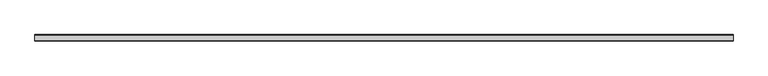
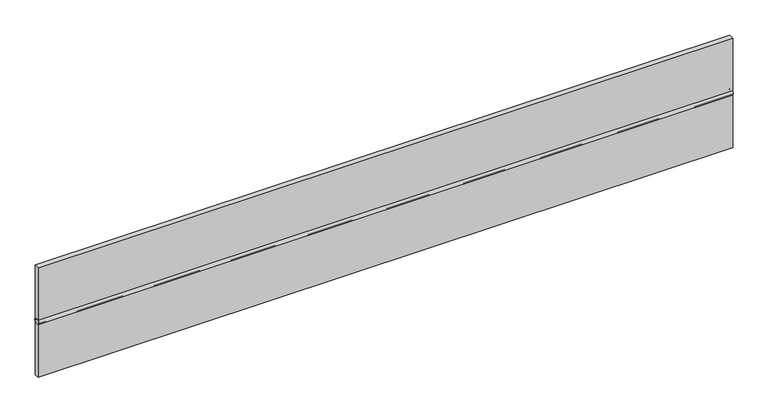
"""IFC4 building model written with IfcOpenShell, lengths in millimetres: proxy geometry, joint water stop - selon ligne plane : JWS - ép 20 mm - largeur 500 mm."""

from ifc_helpers import new_model, si_unit, point, frame, origin, origin_2d, place, context, project, spatial, polyline, circle_curve, trimmed, segment, composite_curve, outline, extrude, source, transform, mapped, element, save


def generic_models_fb369cac(model_context):
    return source(origin(), model_context, "Body", "SweptSolid", [
        extrude(outline(composite_curve([segment(trimmed(circle_curve(origin_2d(), 14.0), [point((-10.0, -9.797959))], [point((-10.0, 9.797959))], False, "CARTESIAN"), True, "CONTINUOUS"), segment(polyline([(-10.0, 9.797959), (-10.0, 250.0), (10.0, 250.0), (10.0, 9.797959)]), True, "CONTINUOUS"), segment(trimmed(circle_curve(origin_2d(), 14.0), [point((10.0, 9.797959))], [point((10.0, -9.797959))], False, "CARTESIAN"), True, "CONTINUOUS"), segment(polyline([(10.0, -9.797959), (10.0, -250.0), (-10.0, -250.0), (-10.0, -9.797959)]), True, "CONTINUOUS")], self_intersect=False), holes=[composite_curve([segment(trimmed(circle_curve(origin_2d(), 10.0), [point((-10.0, 0.0))], [point((10.0, 0.0))], True, "CARTESIAN"), True, "CONTINUOUS"), segment(trimmed(circle_curve(origin_2d(), 10.0), [point((10.0, 0.0))], [point((-10.0, 0.0))], True, "CARTESIAN"), True, "CONTINUOUS")], self_intersect=False)]), frame((0.0, 0.0, 0.0), z_axis=(1.0, 0.0, 0.0), x_axis=(0.0, 1.0, 0.0)), (0.0, 0.0, 1.0), 2993.1647849),
    ])


if __name__ == "__main__":
    model = new_model("IFC4")
    model_context = context("Model", 3, world=origin())
    ifc_project = project(units=[si_unit("LENGTHUNIT", "METRE", prefix="MILLI")], contexts=[model_context])
    site = spatial("IfcSite", under=ifc_project)
    building = spatial("IfcBuilding", under=site)
    placement = place(None, origin())
    generic_models_shape = generic_models_fb369cac(model_context)
    element("IfcBuildingElementProxy", 1, Name="joint water stop - selon ligne plane : JWS - ép 20 mm - largeur 500 mm", ObjectType="joint water stop - selon ligne plane : JWS - ép 20 mm - largeur 500 mm", at=placement, inside=building, context=model_context, shape_type="MappedRepresentation", body=[
        mapped(generic_models_shape, transform((0.0, 0.0, 0.0), x_axis=(1.0, 0.0, 0.0), y_axis=(0.0, 1.0, 0.0), z_axis=(0.0, 0.0, 1.0))),
    ])
    save(model, "model.ifc")
